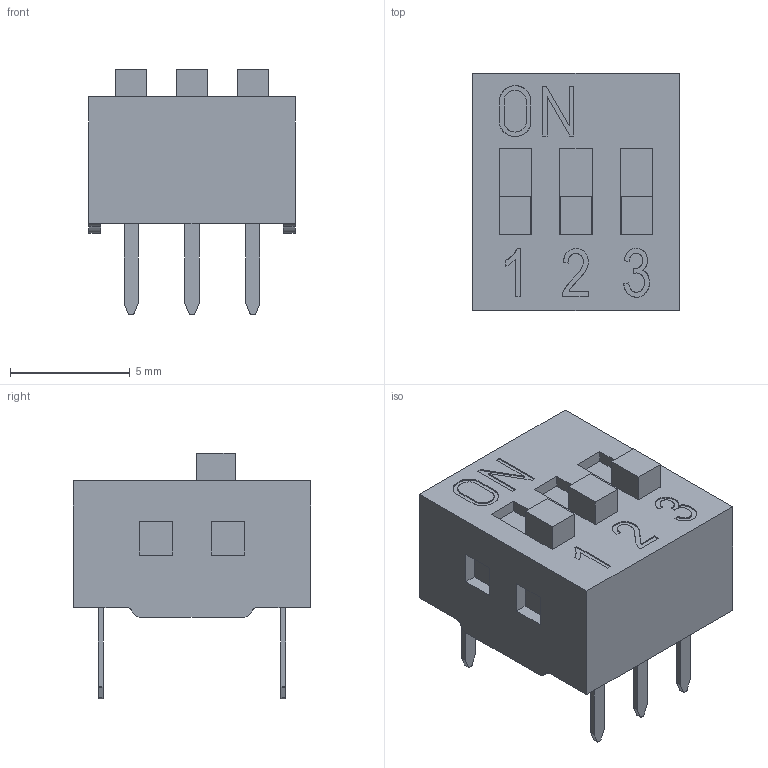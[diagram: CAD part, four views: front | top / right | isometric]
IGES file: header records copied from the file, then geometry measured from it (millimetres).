
Global section: file name: Filename.iges; native system: Open CASCADE 7.3; preprocessor: Open CASCADE IGES processor 7.3; date: 20200811.075220; units: millimetre
Bounding box: 8.62 x 9.9 x 10.25 mm (x, y, z)
Surface area: 1057.4 mm2 (no closed solid volume)
Topology: 0 solids, 0 shells, 271 faces, 1404 edges, 1404 vertices
Faces by surface type: plane 204, bspline 35, revolution 32
